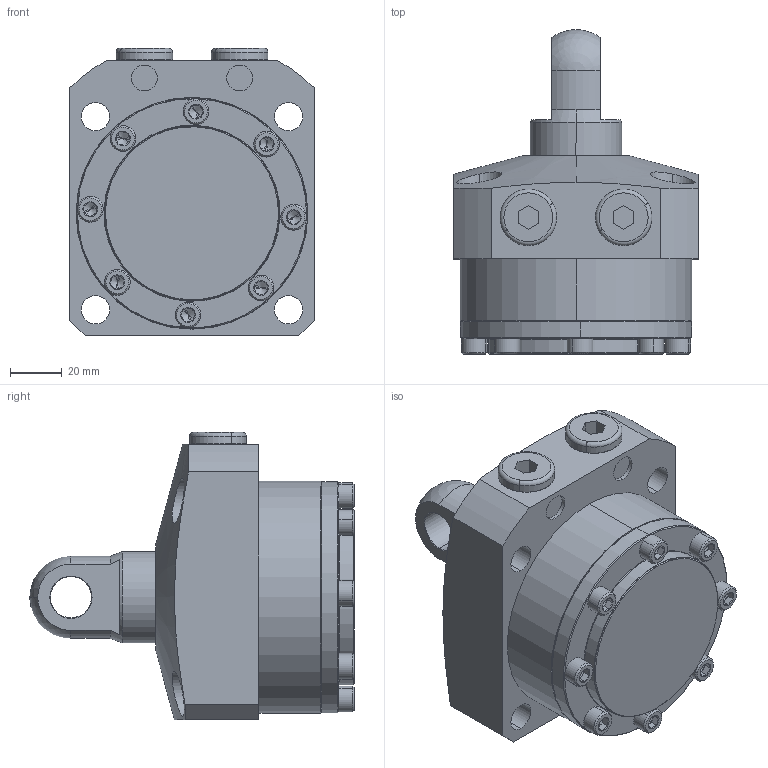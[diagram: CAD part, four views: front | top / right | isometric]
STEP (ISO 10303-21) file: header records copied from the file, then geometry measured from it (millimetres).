
FILE_DESCRIPTION (( 'STEP AP203' ), '1' );
FILE_NAME ('680900-CP-015.step', '2016-11-02T03:28:56', ( 'wxp' ), ( '' ), 'SwSTEP 2.0', 'SolidWorks 2011', '' );
FILE_SCHEMA (( 'CONFIG_CONTROL_DESIGN' ));
Length unit declared in the file: millimetre
Products named in the file (6): 680900-CP-015; 葩璃 680900-CA-15-14^680900-CP-015; 葩璃 68090-CA-15-5^680900-CP-015; 葩璃 68090-CA-15-4^680900-CP-015; 葩璃 68090-CA-15-3^680900-CP-015; 葩璃 68090-CA-15-1^680900-CP-015
Assembly tree (13 placements, depth 2):
  680900-CP-015
    葩璃 680900-CA-15-14^680900-CP-015
    葩璃 68090-CA-15-3^680900-CP-015
    葩璃 68090-CA-15-5^680900-CP-015  x2
    葩璃 68090-CA-15-4^680900-CP-015  x8
    葩璃 68090-CA-15-1^680900-CP-015
Bounding box: 95 x 126 x 111.5 mm (x, y, z)
Volume: 568211.1 mm3; surface area: 79368.2 mm2
Topology: 13 solids, 13 shells, 408 faces, 795 edges, 427 vertices
Faces by surface type: plane 167, cone 120, cylinder 103, torus 16, sphere 2
Entity records: 5889 total; most frequent: CARTESIAN_POINT 1248, DIRECTION 885, ORIENTED_EDGE 716, AXIS2_PLACEMENT_3D 372, EDGE_CURVE 358, VERTEX_POINT 219, EDGE_LOOP 207, CIRCLE 191
